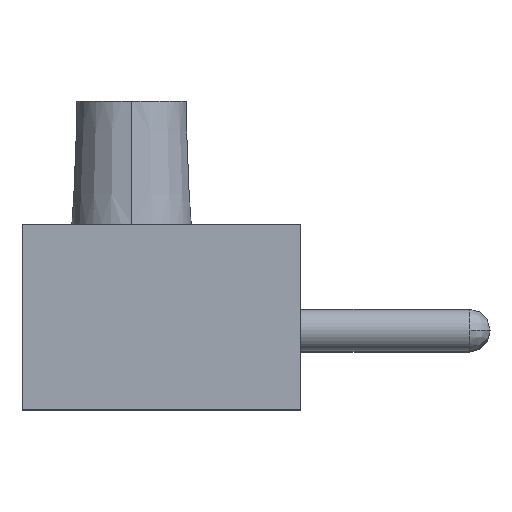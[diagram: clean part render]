
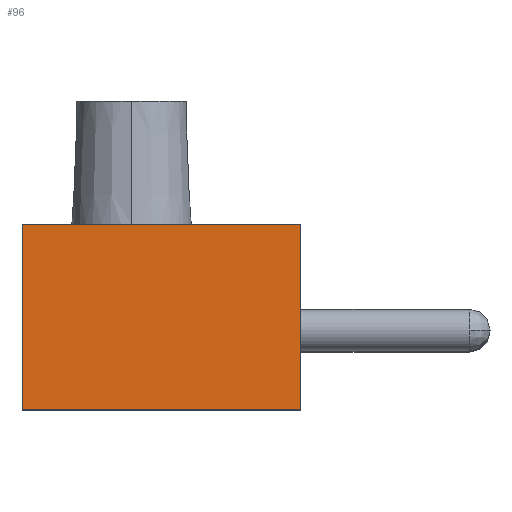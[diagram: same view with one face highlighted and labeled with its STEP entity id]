
A CAD part, top view. The second image highlights one B-rep face of the part: STEP entity #96.
In plain terms, the highlighted planar face has unit normal (0, 0, 1).
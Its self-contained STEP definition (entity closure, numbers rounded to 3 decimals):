
#52 = VERTEX_POINT ( 'NONE', #7536 ) ;
#54 = ORIENTED_EDGE ( 'NONE', *, *, #55, .T. ) ;
#55 = EDGE_CURVE ( 'NONE', #52, #7138, #7535, .T. ) ;
#65 = ORIENTED_EDGE ( 'NONE', *, *, #66, .T. ) ;
#66 = EDGE_CURVE ( 'NONE', #67, #52, #7576, .T. ) ;
#67 = VERTEX_POINT ( 'NONE', #7572 ) ;
#80 = EDGE_LOOP ( 'NONE', ( #65, #54, #227, #209 ) ) ;
#96 = ADVANCED_FACE ( 'NONE', ( #7597 ), #7596, .T. ) ;
#209 = ORIENTED_EDGE ( 'NONE', *, *, #218, .T. ) ;
#218 = EDGE_CURVE ( 'NONE', #1212, #67, #7827, .T. ) ;
#227 = ORIENTED_EDGE ( 'NONE', *, *, #7137, .T. ) ;
#1212 = VERTEX_POINT ( 'NONE', #9770 ) ;
#7137 = EDGE_CURVE ( 'NONE', #7138, #1212, #13546, .T. ) ;
#7138 = VERTEX_POINT ( 'NONE', #13593 ) ;
#7532 = DIRECTION ( 'NONE',  ( -1., 0., 0. ) ) ;
#7533 = VECTOR ( 'NONE', #7532, 1000. ) ;
#7534 = CARTESIAN_POINT ( 'NONE',  ( 0., 9.3, 0. ) ) ;
#7535 = LINE ( 'NONE', #7534, #7533 ) ;
#7536 = CARTESIAN_POINT ( 'NONE',  ( 7., 9.3, 0. ) ) ;
#7572 = CARTESIAN_POINT ( 'NONE',  ( 7., 0., 0. ) ) ;
#7573 = DIRECTION ( 'NONE',  ( 0., 1., 0. ) ) ;
#7574 = VECTOR ( 'NONE', #7573, 1000. ) ;
#7575 = CARTESIAN_POINT ( 'NONE',  ( 7., 4.65, 0. ) ) ;
#7576 = LINE ( 'NONE', #7575, #7574 ) ;
#7592 = DIRECTION ( 'NONE',  ( 1., 0., 0. ) ) ;
#7593 = DIRECTION ( 'NONE',  ( 0., 0., 1. ) ) ;
#7594 = CARTESIAN_POINT ( 'NONE',  ( -7., 0., 0. ) ) ;
#7595 = AXIS2_PLACEMENT_3D ( 'NONE', #7594, #7593, #7592 ) ;
#7596 = PLANE ( 'NONE',  #7595 ) ;
#7597 = FACE_OUTER_BOUND ( 'NONE', #80, .T. ) ;
#7819 = DIRECTION ( 'NONE',  ( 1., 0., 0. ) ) ;
#7820 = VECTOR ( 'NONE', #7819, 1000. ) ;
#7821 = CARTESIAN_POINT ( 'NONE',  ( 0., 0., 0. ) ) ;
#7827 = LINE ( 'NONE', #7821, #7820 ) ;
#9770 = CARTESIAN_POINT ( 'NONE',  ( -7., 0., 0. ) ) ;
#13546 = LINE ( 'NONE', #13551, #13595 ) ;
#13551 = CARTESIAN_POINT ( 'NONE',  ( -7., 4.65, 0. ) ) ;
#13593 = CARTESIAN_POINT ( 'NONE',  ( -7., 9.3, 0. ) ) ;
#13594 = DIRECTION ( 'NONE',  ( 0., -1., 0. ) ) ;
#13595 = VECTOR ( 'NONE', #13594, 1000. ) ;
